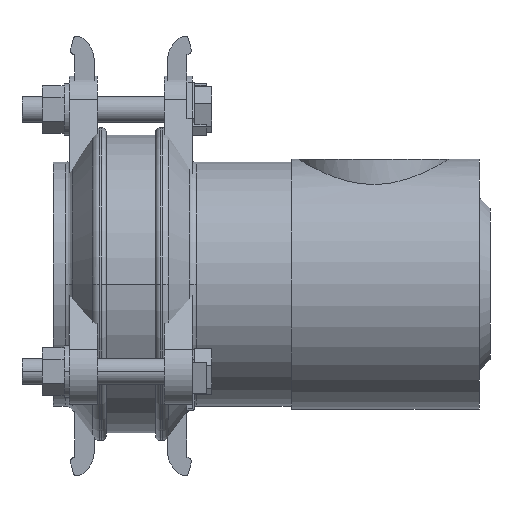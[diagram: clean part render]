
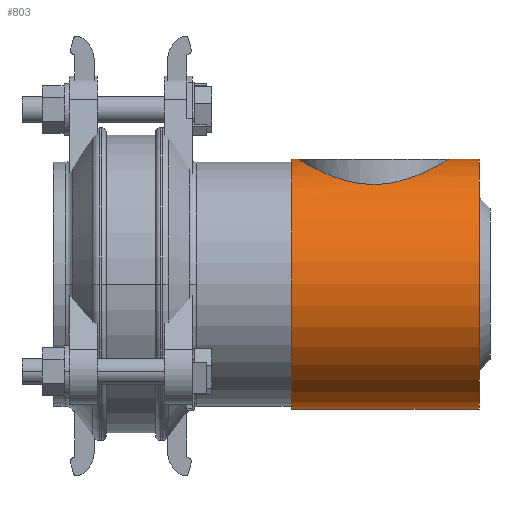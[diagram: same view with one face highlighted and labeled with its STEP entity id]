
A CAD part, front view. The second image highlights one B-rep face of the part: STEP entity #803.
In plain terms, the highlighted cylindrical face has radius 58 mm (diameter 116 mm), a partial arc.
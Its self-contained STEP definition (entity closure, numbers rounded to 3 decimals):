
#803=ADVANCED_FACE('',(#1620),#1621,.T.);
#1620=FACE_OUTER_BOUND('',#2696,.T.);
#1621=CYLINDRICAL_SURFACE('',#2697,58.0);
#2696=EDGE_LOOP('',(#3968,#3969,#3970,#3971,#3972,#3973));
#2697=AXIS2_PLACEMENT_3D('',#3974,#3975,#3976);
#3968=ORIENTED_EDGE('',*,*,#6095,.T.);
#3969=ORIENTED_EDGE('',*,*,#6096,.T.);
#3970=ORIENTED_EDGE('',*,*,#6097,.T.);
#3971=ORIENTED_EDGE('',*,*,#6098,.T.);
#3972=ORIENTED_EDGE('',*,*,#6099,.T.);
#3973=ORIENTED_EDGE('',*,*,#5832,.T.);
#3974=CARTESIAN_POINT('',(7.5,0.0,0.));
#3975=DIRECTION('',(1.0,0.0,0.));
#3976=DIRECTION('',(0.,0.0,-1.0));
#5832=EDGE_CURVE('',#6844,#6843,#6846,.T.);
#6095=EDGE_CURVE('',#6843,#7282,#7283,.T.);
#6096=EDGE_CURVE('',#7282,#7284,#7285,.T.);
#6097=EDGE_CURVE('',#7284,#7286,#7287,.T.);
#6098=EDGE_CURVE('',#7286,#7288,#7289,.T.);
#6099=EDGE_CURVE('',#7288,#6844,#7290,.T.);
#6843=VERTEX_POINT('',#8236);
#6844=VERTEX_POINT('',#8237);
#6846=CIRCLE('',#8239,58.0);
#7282=VERTEX_POINT('',#8805);
#7283=LINE('',#8806,#8807);
#7284=VERTEX_POINT('',#8808);
#7285=CIRCLE('',#8809,58.0);
#7286=VERTEX_POINT('',#8810);
#7287=LINE('',#8811,#8812);
#7288=VERTEX_POINT('',#8813);
#7289=B_SPLINE_CURVE_WITH_KNOTS('',3,(#8814,#8815,#8816,#8817,#8818,#8819,#8820,#8821,#8822,#8823,#8824,#8825,#8826,#8827,#8828,#8829,#8830,#8831,#8832,#8833,#8834,#8835,#8836,#8837,#8838,#8839,#8840,#8841,#8842,#8843,#8844,#8845,#8846,#8847,#8848,#8849,#8850,#8851,#8852,#8853,#8854,#8855,#8856,#8857,#8858,#8859,#8860,#8861,#8862,#8863,#8864,#8865,#8866,#8867,#8868,#8869,#8870,#8871,#8872,#8873,#8874,#8875,#8876,#8877,#8878,#8879),.UNSPECIFIED.,.F.,.F.,(4,2,2,2,2,2,2,2,2,2,2,2,2,2,2,2,2,2,2,2,2,2,2,2,2,2,2,2,2,2,2,2,4),(54.429,57.82,61.21,64.601,67.991,71.382,74.772,78.163,81.553,84.967,88.38,91.793,95.206,98.619,102.032,105.446,108.859,112.272,115.685,119.098,122.511,125.925,129.338,132.751,136.164,139.555,142.945,146.336,149.726,153.117,156.507,159.898,163.288),.UNSPECIFIED.);
#7290=LINE('',#8880,#8881);
#8236=CARTESIAN_POINT('',(7.5,0.0,-58.0));
#8237=CARTESIAN_POINT('',(7.5,0.,58.0));
#8239=AXIS2_PLACEMENT_3D('',#10033,#10034,#10035);
#8805=CARTESIAN_POINT('',(94.5,0.0,-58.0));
#8806=CARTESIAN_POINT('',(7.5,0.,-58.0));
#8807=VECTOR('',#10370,1.0);
#8808=CARTESIAN_POINT('',(94.5,0.,58.0));
#8809=AXIS2_PLACEMENT_3D('',#10371,#10372,#10373);
#8810=CARTESIAN_POINT('',(80.5,0.,58.0));
#8811=CARTESIAN_POINT('',(7.5,0.,58.0));
#8812=VECTOR('',#10374,1.0);
#8813=CARTESIAN_POINT('',(10.5,0.0,58.0));
#8814=CARTESIAN_POINT('',(80.5,0.,58.0));
#8815=CARTESIAN_POINT('',(80.5,-1.13,58.0));
#8816=CARTESIAN_POINT('',(80.445,-2.275,57.967));
#8817=CARTESIAN_POINT('',(80.219,-4.572,57.831));
#8818=CARTESIAN_POINT('',(80.049,-5.724,57.728));
#8819=CARTESIAN_POINT('',(79.591,-8.012,57.456));
#8820=CARTESIAN_POINT('',(79.304,-9.148,57.285));
#8821=CARTESIAN_POINT('',(78.617,-11.386,56.883));
#8822=CARTESIAN_POINT('',(78.217,-12.488,56.651));
#8823=CARTESIAN_POINT('',(77.314,-14.636,56.134));
#8824=CARTESIAN_POINT('',(76.81,-15.685,55.849));
#8825=CARTESIAN_POINT('',(75.708,-17.714,55.239));
#8826=CARTESIAN_POINT('',(75.111,-18.695,54.914));
#8827=CARTESIAN_POINT('',(73.836,-20.575,54.237));
#8828=CARTESIAN_POINT('',(73.16,-21.475,53.886));
#8829=CARTESIAN_POINT('',(71.745,-23.183,53.173));
#8830=CARTESIAN_POINT('',(71.007,-23.991,52.812));
#8831=CARTESIAN_POINT('',(69.486,-25.512,52.095));
#8832=CARTESIAN_POINT('',(68.674,-26.253,51.725));
#8833=CARTESIAN_POINT('',(66.961,-27.671,50.98));
#8834=CARTESIAN_POINT('',(66.06,-28.347,50.606));
#8835=CARTESIAN_POINT('',(64.18,-29.62,49.872));
#8836=CARTESIAN_POINT('',(63.201,-30.216,49.512));
#8837=CARTESIAN_POINT('',(61.177,-31.314,48.825));
#8838=CARTESIAN_POINT('',(60.132,-31.816,48.498));
#8839=CARTESIAN_POINT('',(57.991,-32.716,47.895));
#8840=CARTESIAN_POINT('',(56.894,-33.114,47.62));
#8841=CARTESIAN_POINT('',(54.662,-33.8,47.136));
#8842=CARTESIAN_POINT('',(53.528,-34.087,46.927));
#8843=CARTESIAN_POINT('',(51.242,-34.545,46.591));
#8844=CARTESIAN_POINT('',(50.09,-34.717,46.462));
#8845=CARTESIAN_POINT('',(47.788,-34.944,46.292));
#8846=CARTESIAN_POINT('',(46.638,-35.0,46.249));
#8847=CARTESIAN_POINT('',(44.362,-35.0,46.249));
#8848=CARTESIAN_POINT('',(43.212,-34.944,46.292));
#8849=CARTESIAN_POINT('',(40.91,-34.717,46.462));
#8850=CARTESIAN_POINT('',(39.758,-34.545,46.591));
#8851=CARTESIAN_POINT('',(37.472,-34.087,46.927));
#8852=CARTESIAN_POINT('',(36.338,-33.8,47.136));
#8853=CARTESIAN_POINT('',(34.106,-33.114,47.62));
#8854=CARTESIAN_POINT('',(33.009,-32.716,47.895));
#8855=CARTESIAN_POINT('',(30.868,-31.816,48.498));
#8856=CARTESIAN_POINT('',(29.823,-31.314,48.825));
#8857=CARTESIAN_POINT('',(27.799,-30.216,49.512));
#8858=CARTESIAN_POINT('',(26.82,-29.62,49.872));
#8859=CARTESIAN_POINT('',(24.94,-28.347,50.606));
#8860=CARTESIAN_POINT('',(24.039,-27.671,50.98));
#8861=CARTESIAN_POINT('',(22.326,-26.253,51.725));
#8862=CARTESIAN_POINT('',(21.514,-25.512,52.095));
#8863=CARTESIAN_POINT('',(19.993,-23.991,52.812));
#8864=CARTESIAN_POINT('',(19.255,-23.183,53.173));
#8865=CARTESIAN_POINT('',(17.84,-21.475,53.886));
#8866=CARTESIAN_POINT('',(17.164,-20.575,54.237));
#8867=CARTESIAN_POINT('',(15.889,-18.695,54.914));
#8868=CARTESIAN_POINT('',(15.292,-17.714,55.239));
#8869=CARTESIAN_POINT('',(14.19,-15.685,55.849));
#8870=CARTESIAN_POINT('',(13.686,-14.636,56.134));
#8871=CARTESIAN_POINT('',(12.783,-12.488,56.651));
#8872=CARTESIAN_POINT('',(12.383,-11.386,56.883));
#8873=CARTESIAN_POINT('',(11.696,-9.148,57.285));
#8874=CARTESIAN_POINT('',(11.409,-8.012,57.456));
#8875=CARTESIAN_POINT('',(10.951,-5.724,57.728));
#8876=CARTESIAN_POINT('',(10.781,-4.572,57.831));
#8877=CARTESIAN_POINT('',(10.555,-2.275,57.967));
#8878=CARTESIAN_POINT('',(10.5,-1.13,58.0));
#8879=CARTESIAN_POINT('',(10.5,0.0,58.0));
#8880=CARTESIAN_POINT('',(7.5,0.,58.0));
#8881=VECTOR('',#10375,1.0);
#10033=CARTESIAN_POINT('',(7.5,0.0,0.));
#10034=DIRECTION('',(1.0,0.0,0.));
#10035=DIRECTION('',(0.,0.0,-1.0));
#10370=DIRECTION('',(1.0,0.0,0.));
#10371=CARTESIAN_POINT('',(94.5,0.0,0.));
#10372=DIRECTION('',(-1.0,-0.0,0.));
#10373=DIRECTION('',(0.,0.0,-1.0));
#10374=DIRECTION('',(-1.0,-0.0,0.));
#10375=DIRECTION('',(-1.0,-0.0,0.));
